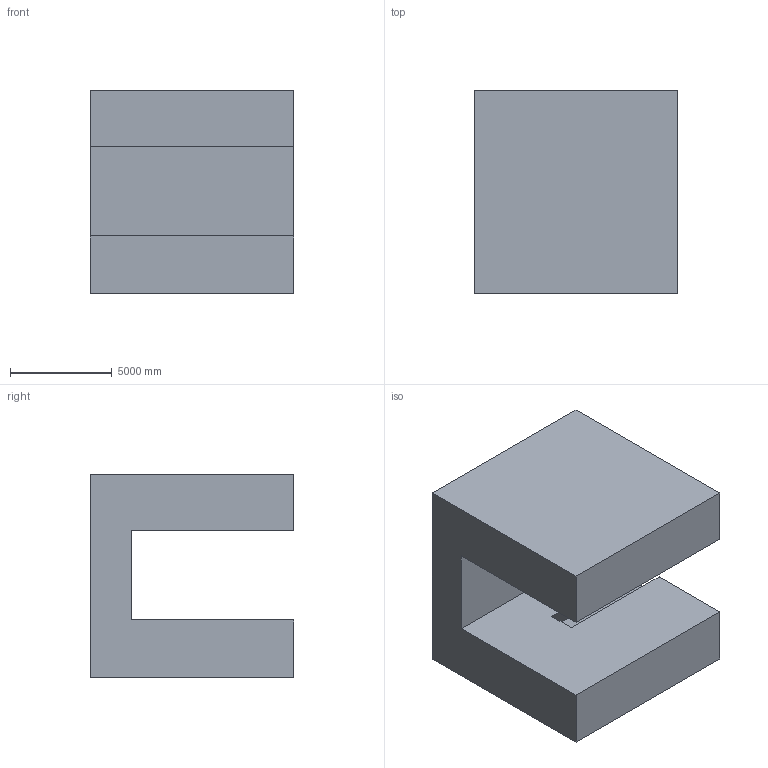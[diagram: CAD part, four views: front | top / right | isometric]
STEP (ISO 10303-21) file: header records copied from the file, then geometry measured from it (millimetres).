
FILE_DESCRIPTION (( 'STEP AP203' ), '1' );
FILE_NAME ('1046.STEP', '2022-08-18T12:32:59', ( 'user' ), ( '' ), 'SwSTEP 2.0', 'SolidWorks 2021', '' );
FILE_SCHEMA (( 'CONFIG_CONTROL_DESIGN' ));
Length unit declared in the file: centimetre
Products named in the file (1): 1046
Bounding box: 10000 x 10000 x 10000 mm (x, y, z)
Volume: 637365061344 mm3; surface area: 712815918.5 mm2
Topology: 1 solids, 1 shells, 14 faces, 36 edges, 24 vertices
Faces by surface type: plane 14
Entity records: 497 total; most frequent: CARTESIAN_POINT 75, ORIENTED_EDGE 72, DIRECTION 66, VECTOR 36, LINE 36, EDGE_CURVE 36, VERTEX_POINT 24, AXIS2_PLACEMENT_3D 15
